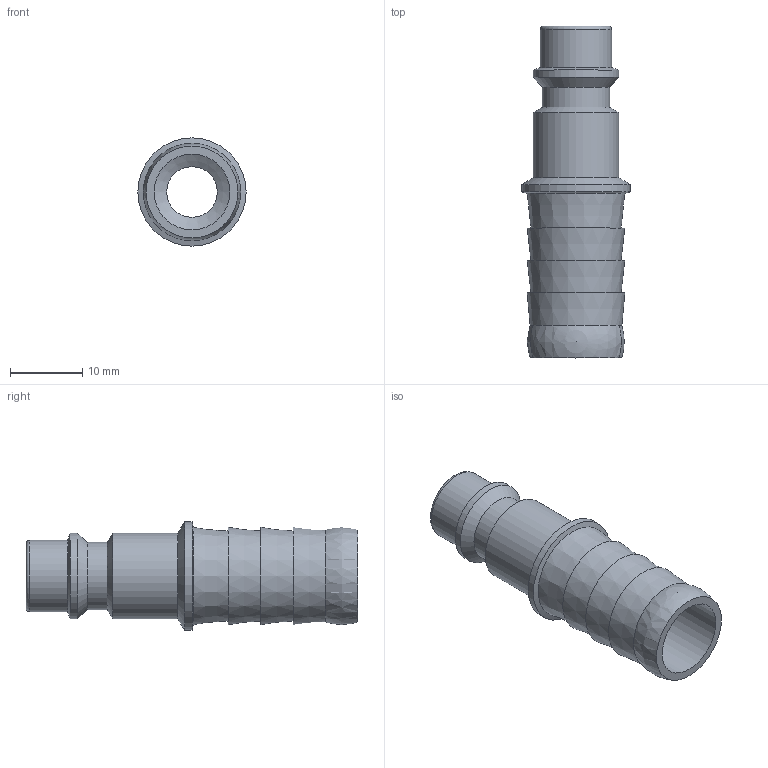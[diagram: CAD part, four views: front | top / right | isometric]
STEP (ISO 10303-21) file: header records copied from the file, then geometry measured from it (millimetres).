
FILE_DESCRIPTION(/* description */ (''),/* implementation_level */ '2;1');
FILE_NAME(/* name */ 'S:\_Tecnico\ArchivioUT\_Disegni3D ingombri\DISEGNI 3D per ingombri\GD\GD900013.stp',/* time_stamp */ '2020-11-19T16:15:03+01:00',/* author */ ('UfficioTecnico'),/* organization */ (''),/* preprocessor_version */ 'ST-DEVELOPER v18',/* originating_system */ 'Autodesk Inventor 2020',/* authorisation */ '');
FILE_SCHEMA (('AUTOMOTIVE_DESIGN { 1 0 10303 214 3 1 1 }'));
Length unit declared in the file: millimetre
Products named in the file (1): GD900013
Bounding box: 15 x 46 x 15 mm (x, y, z)
Volume: 2085.3 mm3; surface area: 3396.4 mm2
Topology: 1 solids, 1 shells, 25 faces, 71 edges, 51 vertices
Faces by surface type: cone 11, cylinder 7, plane 5, torus 1, sphere 1
Full cylindrical faces by diameter (mm): 7 x1, 9.3 x1, 9.9 x1, 10.5 x1, 11.8 x1, 11.9 x1, 15 x1
Entity records: 899 total; most frequent: DIRECTION 172, CARTESIAN_POINT 146, ORIENTED_EDGE 138, AXIS2_PLACEMENT_3D 77, EDGE_CURVE 69, CIRCLE 51, VERTEX_POINT 51, EDGE_LOOP 32
